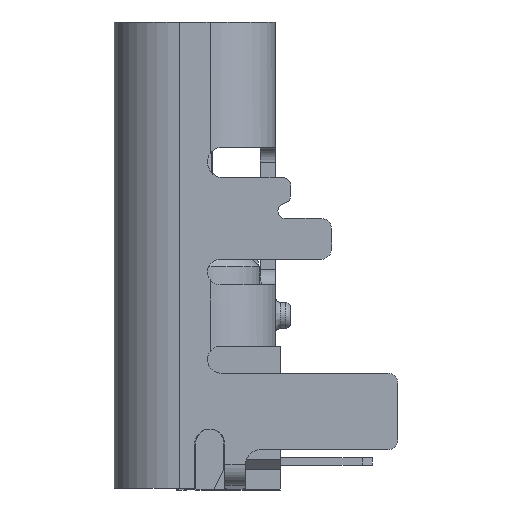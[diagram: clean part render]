
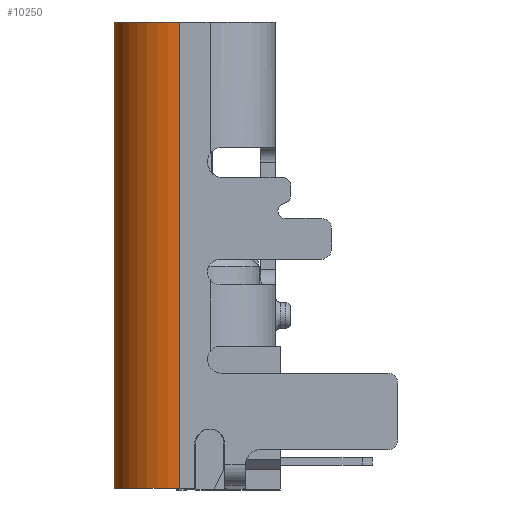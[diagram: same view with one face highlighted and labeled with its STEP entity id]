
A CAD part, left-side view. The second image highlights one B-rep face of the part: STEP entity #10250.
In plain terms, the highlighted cylindrical face has radius 1.28 mm (diameter 2.56 mm), a partial arc.
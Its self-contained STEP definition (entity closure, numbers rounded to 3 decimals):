
#10250=ADVANCED_FACE('',(#16200),#16201,.T.);
#16200=FACE_OUTER_BOUND('',#30413,.T.);
#16201=CYLINDRICAL_SURFACE('',#30414,1.28);
#30413=EDGE_LOOP('',(#50553,#50554,#50555,#50556));
#30414=AXIS2_PLACEMENT_3D('',#50557,#50558,#50559);
#50553=ORIENTED_EDGE('',*,*,#68300,.T.);
#50554=ORIENTED_EDGE('',*,*,#67984,.T.);
#50555=ORIENTED_EDGE('',*,*,#68301,.T.);
#50556=ORIENTED_EDGE('',*,*,#68283,.F.);
#50557=CARTESIAN_POINT('',(3.023,-4.45,-1.28));
#50558=DIRECTION('',(0.0,-1.0,-0.0));
#50559=DIRECTION('',(0.0,0.0,-1.0));
#67984=EDGE_CURVE('',#86982,#86980,#86983,.T.);
#68283=EDGE_CURVE('',#87454,#87456,#87457,.T.);
#68300=EDGE_CURVE('',#87454,#86982,#87481,.T.);
#68301=EDGE_CURVE('',#86980,#87456,#87482,.T.);
#86980=VERTEX_POINT('',#112863);
#86982=VERTEX_POINT('',#112866);
#86983=LINE('',#112867,#112868);
#87454=VERTEX_POINT('',#114383);
#87456=VERTEX_POINT('',#114386);
#87457=LINE('',#114387,#114388);
#87481=CIRCLE('',#114463,1.28);
#87482=CIRCLE('',#114464,1.28);
#112863=CARTESIAN_POINT('',(4.303,-0.475,-1.28));
#112866=CARTESIAN_POINT('',(4.303,-9.615,-1.28));
#112867=CARTESIAN_POINT('',(4.303,-4.45,-1.28));
#112868=VECTOR('',#134622,1000.0);
#114383=CARTESIAN_POINT('',(3.023,-9.615,0.0));
#114386=CARTESIAN_POINT('',(3.023,-0.475,0.0));
#114387=CARTESIAN_POINT('',(3.023,-6.3,0.0));
#114388=VECTOR('',#134939,1000.0);
#114463=AXIS2_PLACEMENT_3D('',#134955,#134956,#134957);
#114464=AXIS2_PLACEMENT_3D('',#134958,#134959,#134960);
#134622=DIRECTION('',(0.0,1.0,0.0));
#134939=DIRECTION('',(0.0,1.0,0.0));
#134955=CARTESIAN_POINT('',(3.023,-9.615,-1.28));
#134956=DIRECTION('',(0.0,1.0,0.0));
#134957=DIRECTION('',(0.0,0.0,-1.0));
#134958=CARTESIAN_POINT('',(3.023,-0.475,-1.28));
#134959=DIRECTION('',(0.0,-1.0,0.0));
#134960=DIRECTION('',(0.0,0.0,-1.0));
